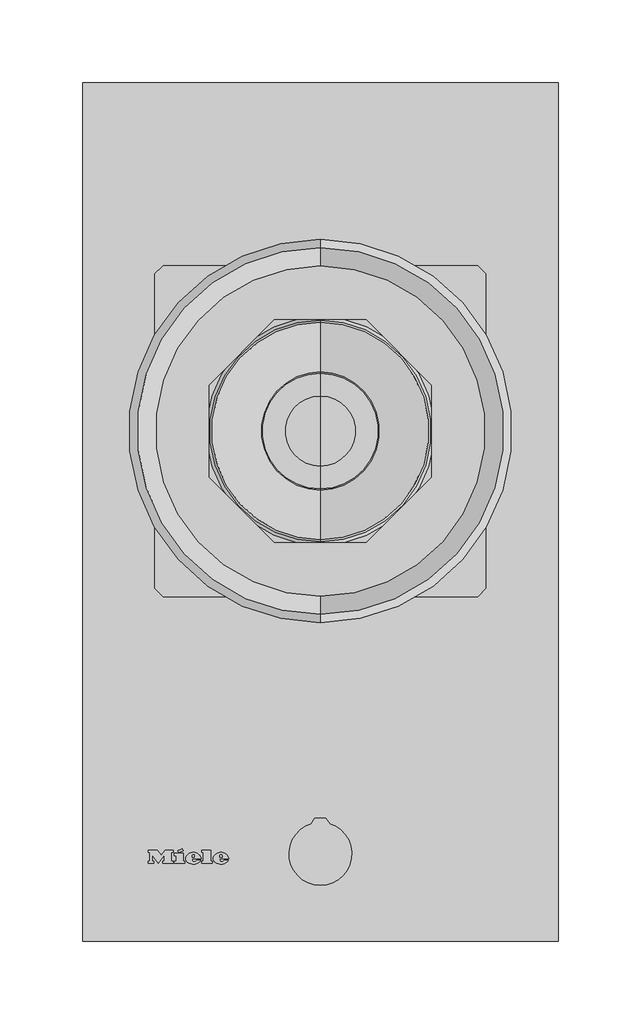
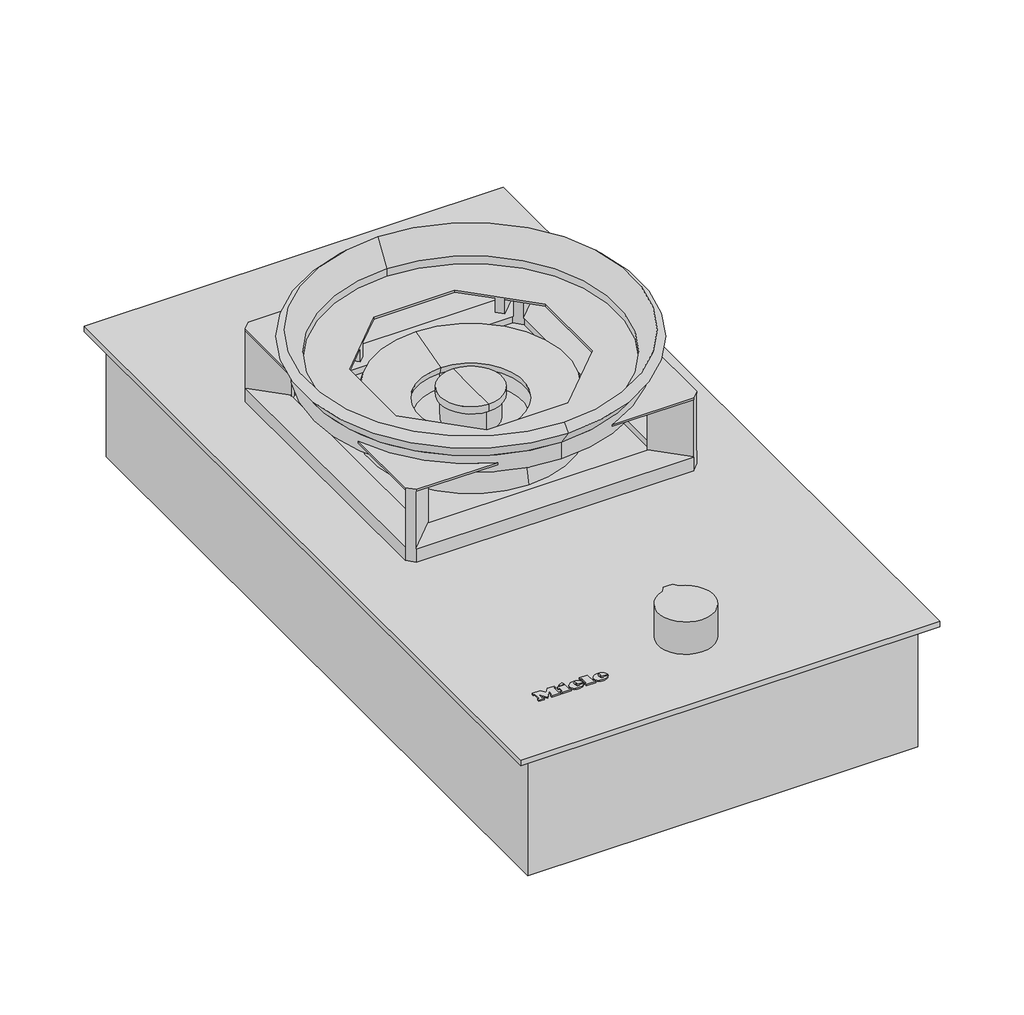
# Not in any storey: 1 proxy.
"""IFC4 building model written with IfcOpenShell, lengths in millimetres."""

from ifc_helpers import new_model, si_unit, origin, place, context, project, spatial, transform, mapped, element, save
from components import specialty_equipment_0a913533, specialty_equipment_cc2c99b8

model = new_model("IFC4")

# Units and contexts
model_context = context("Model", 3, world=origin())
ifc_project = project(units=[si_unit("LENGTHUNIT", "METRE", prefix="MILLI")], contexts=[model_context])

# Site, building
site = spatial("IfcSite", under=ifc_project)
building = spatial("IfcBuilding", under=site)

# Proxy
placement = place(None, origin())
specialty_equipment_shape = specialty_equipment_0a913533(model_context)
specialty_equipment_2_shape = specialty_equipment_cc2c99b8(model_context)
element("IfcBuildingElementProxy", 1, Name="12106150_HK_CS7151FL : 27715150_HK_12106150_CS7151FL", ObjectType="12106150_HK_CS7151FL : 27715150_HK_12106150_CS7151FL", at=placement, inside=building, context=model_context, shape_type="MappedRepresentation", body=[
    mapped(specialty_equipment_shape, transform((0.0, 0.0, 0.0), x_axis=(1.0, 0.0, 0.0), y_axis=(0.0, 1.0, 0.0), z_axis=(0.0, 0.0, 1.0))),
    mapped(specialty_equipment_2_shape, transform((0.0, 0.0, 0.0), x_axis=(1.0, 0.0, 0.0), y_axis=(0.0, 1.0, 0.0), z_axis=(0.0, 0.0, 1.0))),
])

save(model, "model.ifc")
